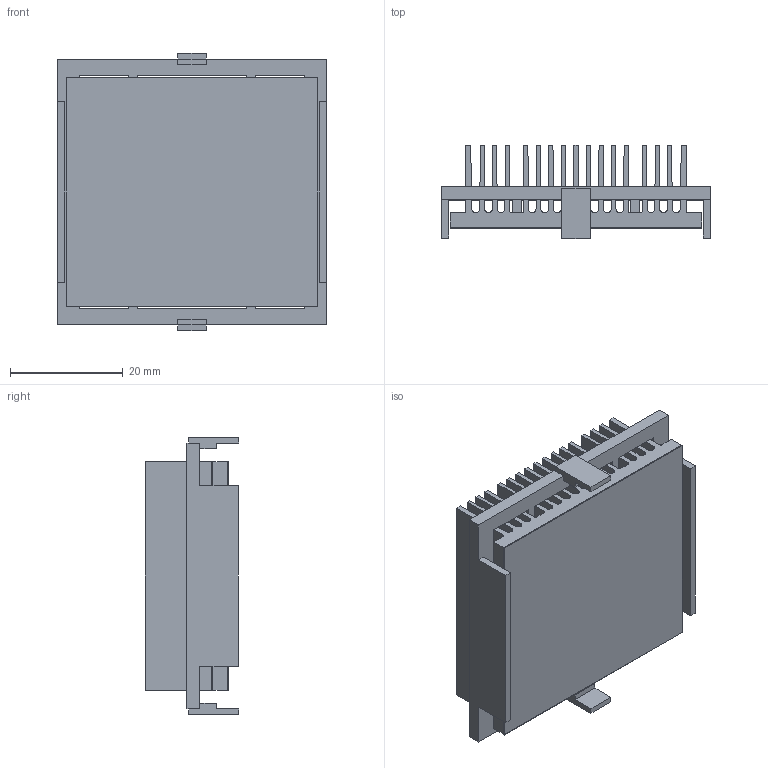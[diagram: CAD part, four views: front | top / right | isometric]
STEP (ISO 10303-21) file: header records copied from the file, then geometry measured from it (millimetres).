
FILE_DESCRIPTION (( 'STEP AP214' ), '1' );
FILE_NAME ('INH45001-15-2.6BU.STEP', '2023-02-20T22:15:18', ( '' ), ( '' ), 'SwSTEP 2.0', 'SolidWorks 2020', '' );
FILE_SCHEMA (( 'AUTOMOTIVE_DESIGN' ));
Length unit declared in the file: millimetre
Products named in the file (1): INH45001-15-2.6BU
Bounding box: 47.7 x 16.61 x 49.2 mm (x, y, z)
Volume: 13983.1 mm3; surface area: 27539.6 mm2
Topology: 3 solids, 3 shells, 172 faces, 498 edges, 332 vertices
Faces by surface type: plane 138, cylinder 34
Entity records: 7558 total; most frequent: CARTESIAN_POINT 1003, ORIENTED_EDGE 996, DIRECTION 912, EDGE_CURVE 498, VECTOR 430, LINE 430, VERTEX_POINT 332, AXIS2_PLACEMENT_3D 241
